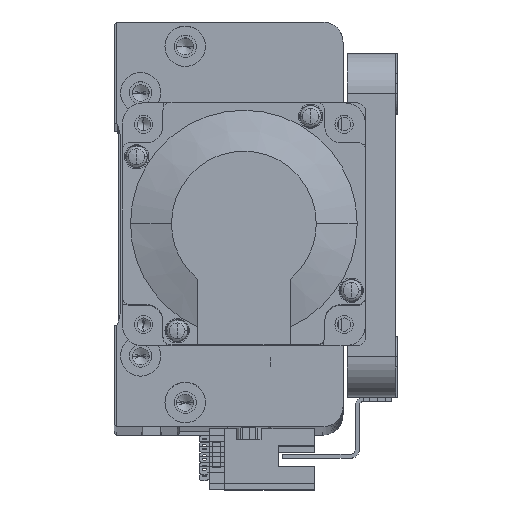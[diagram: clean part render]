
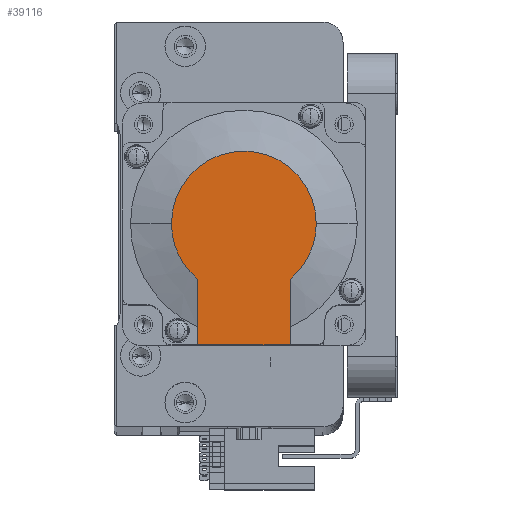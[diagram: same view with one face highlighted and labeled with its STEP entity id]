
A CAD part, top view. The second image highlights one B-rep face of the part: STEP entity #39116.
In plain terms, the highlighted planar face has unit normal (0, 0, 1) as drawn and (-1, 0, 0) by its records, which use the part's own axes.
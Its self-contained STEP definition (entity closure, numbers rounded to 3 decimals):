
#574 = CIRCLE ( 'NONE', #31444, 17.881 ) ;
#1457 = CARTESIAN_POINT ( 'NONE',  ( -118.5, 13.735, 11.45 ) ) ;
#5496 = VECTOR ( 'NONE', #25719, 1000. ) ;
#5722 = EDGE_LOOP ( 'NONE', ( #33507, #14753, #20483, #37267, #43385, #35713 ) ) ;
#7726 = CARTESIAN_POINT ( 'NONE',  ( -118.5, -8.941, 0. ) ) ;
#9028 = EDGE_CURVE ( 'NONE', #36970, #25191, #49609, .T. ) ;
#12405 = DIRECTION ( 'NONE',  ( 0., 0., 1. ) ) ;
#14177 = CARTESIAN_POINT ( 'NONE',  ( -118.5, 0., 0. ) ) ;
#14631 = CARTESIAN_POINT ( 'NONE',  ( -118.5, 13.735, -11.45 ) ) ;
#14753 = ORIENTED_EDGE ( 'NONE', *, *, #25712, .T. ) ;
#15396 = CIRCLE ( 'NONE', #44689, 17.881 ) ;
#16729 = VERTEX_POINT ( 'NONE', #24748 ) ;
#18541 = DIRECTION ( 'NONE',  ( 0., -1., 0. ) ) ;
#18777 = DIRECTION ( 'NONE',  ( 0., 0., -1. ) ) ;
#19196 = VECTOR ( 'NONE', #18541, 1000. ) ;
#19978 = DIRECTION ( 'NONE',  ( 0., -1., 0. ) ) ;
#20305 = EDGE_CURVE ( 'NONE', #58972, #22170, #15396, .T. ) ;
#20483 = ORIENTED_EDGE ( 'NONE', *, *, #20305, .T. ) ;
#20824 = CARTESIAN_POINT ( 'NONE',  ( -118.5, 0., 0. ) ) ;
#22170 = VERTEX_POINT ( 'NONE', #59587 ) ;
#23955 = CARTESIAN_POINT ( 'NONE',  ( -118.5, 0., 0. ) ) ;
#24748 = CARTESIAN_POINT ( 'NONE',  ( -118.5, 30., 11.45 ) ) ;
#25191 = VERTEX_POINT ( 'NONE', #14631 ) ;
#25411 = DIRECTION ( 'NONE',  ( 0., 0., -1. ) ) ;
#25712 = EDGE_CURVE ( 'NONE', #25191, #58972, #574, .T. ) ;
#25719 = DIRECTION ( 'NONE',  ( 0., 0., 1. ) ) ;
#26775 = FACE_OUTER_BOUND ( 'NONE', #5722, .T. ) ;
#27032 = CARTESIAN_POINT ( 'NONE',  ( -118.5, 30., -11.45 ) ) ;
#28533 = DIRECTION ( 'NONE',  ( 0., 0., -1. ) ) ;
#28588 = EDGE_CURVE ( 'NONE', #36970, #16729, #54448, .T. ) ;
#29193 = CARTESIAN_POINT ( 'NONE',  ( -118.5, 0., -17.881 ) ) ;
#31444 = AXIS2_PLACEMENT_3D ( 'NONE', #23955, #56162, #28533 ) ;
#33507 = ORIENTED_EDGE ( 'NONE', *, *, #9028, .T. ) ;
#35713 = ORIENTED_EDGE ( 'NONE', *, *, #28588, .F. ) ;
#36970 = VERTEX_POINT ( 'NONE', #27032 ) ;
#37054 = CARTESIAN_POINT ( 'NONE',  ( -118.5, 0., 11.45 ) ) ;
#37267 = ORIENTED_EDGE ( 'NONE', *, *, #43306, .T. ) ;
#39116 = ADVANCED_FACE ( 'NONE', ( #26775 ), #44356, .T. ) ;
#39934 = DIRECTION ( 'NONE',  ( -1., 0., 0. ) ) ;
#43271 = AXIS2_PLACEMENT_3D ( 'NONE', #20824, #53051, #25411 ) ;
#43306 = EDGE_CURVE ( 'NONE', #22170, #55726, #56261, .T. ) ;
#43385 = ORIENTED_EDGE ( 'NONE', *, *, #55536, .F. ) ;
#44356 = PLANE ( 'NONE',  #47570 ) ;
#44689 = AXIS2_PLACEMENT_3D ( 'NONE', #14177, #46332, #18777 ) ;
#46332 = DIRECTION ( 'NONE',  ( -1., 0., 0. ) ) ;
#47570 = AXIS2_PLACEMENT_3D ( 'NONE', #7726, #39934, #12405 ) ;
#48160 = VECTOR ( 'NONE', #19978, 1000. ) ;
#48712 = CARTESIAN_POINT ( 'NONE',  ( -118.5, 30., 25. ) ) ;
#49609 = LINE ( 'NONE', #52209, #48160 ) ;
#52209 = CARTESIAN_POINT ( 'NONE',  ( -118.5, -8.941, -11.45 ) ) ;
#53051 = DIRECTION ( 'NONE',  ( -1., 0., 0. ) ) ;
#54448 = LINE ( 'NONE', #48712, #5496 ) ;
#54483 = LINE ( 'NONE', #37054, #19196 ) ;
#55536 = EDGE_CURVE ( 'NONE', #16729, #55726, #54483, .T. ) ;
#55726 = VERTEX_POINT ( 'NONE', #1457 ) ;
#56162 = DIRECTION ( 'NONE',  ( -1., 0., 0. ) ) ;
#56261 = CIRCLE ( 'NONE', #43271, 17.881 ) ;
#58972 = VERTEX_POINT ( 'NONE', #29193 ) ;
#59587 = CARTESIAN_POINT ( 'NONE',  ( -118.5, 0., 17.881 ) ) ;
